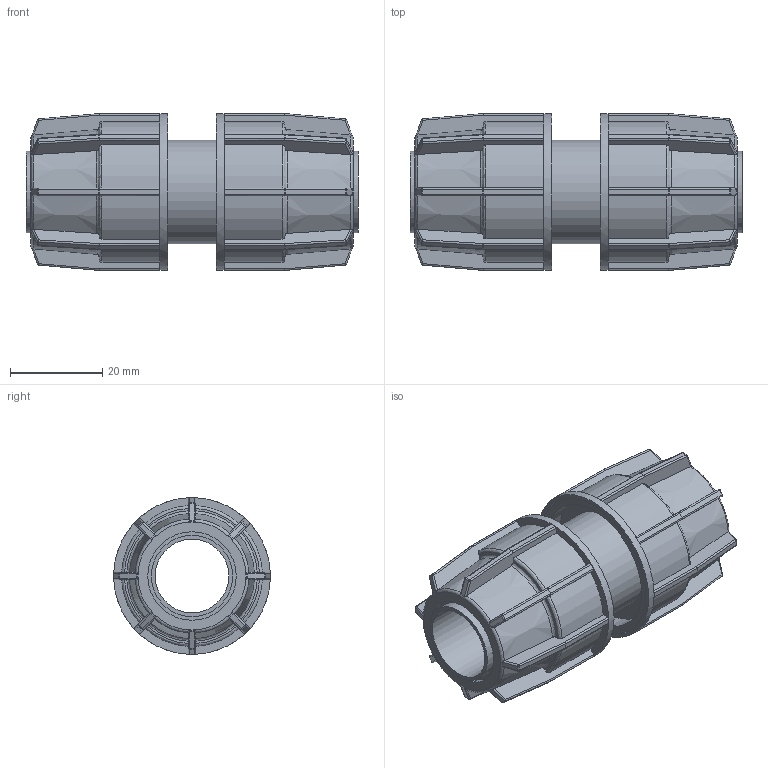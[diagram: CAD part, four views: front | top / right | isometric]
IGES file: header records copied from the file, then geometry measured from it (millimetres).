
Global section: file name: 040107016.ipt; native system: Autodesk Inventor 2015; preprocessor: unknown; author: KIM; date: 20180409.130615; units: millimetre
Bounding box: 72 x 34 x 34 mm (x, y, z)
Volume: 27805.3 mm3; surface area: 15538.2 mm2
Topology: 1 solids, 1 shells, 522 faces, 1263 edges, 727 vertices
Faces by surface type: plane 236, cylinder 149, sphere 64, revolution 41, bspline 16, cone 16
Full cylindrical faces by diameter (mm): 17.6 x2, 22.4 x1, 34 x2
